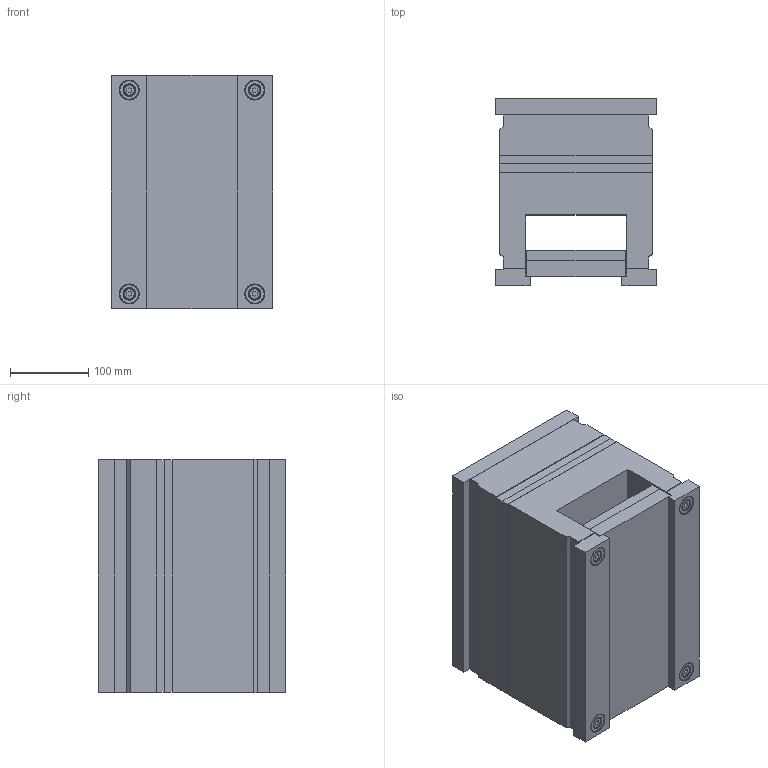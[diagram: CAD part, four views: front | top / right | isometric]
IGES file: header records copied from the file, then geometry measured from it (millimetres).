
Start section: SolidWorks IGES FILE using analytic representation for surfaces
Global section: file name: C:\Documents and Settings\K.P\My Documents\Mechanical\ALMO\CATL_EUR\RECT\1963.IGS; native system: SolidWorks 2001Plus by SolidWorks Corporation; preprocessor: Version 5.3; author: Pavel; date: 020709.092016; units: millimetre
Bounding box: 206 x 239 x 298 mm (x, y, z)
Surface area: 827057.7 mm2 (no closed solid volume)
Topology: 0 solids, 0 shells, 706 faces, 10312 edges, 10304 vertices
Faces by surface type: revolution 452, bspline 254
